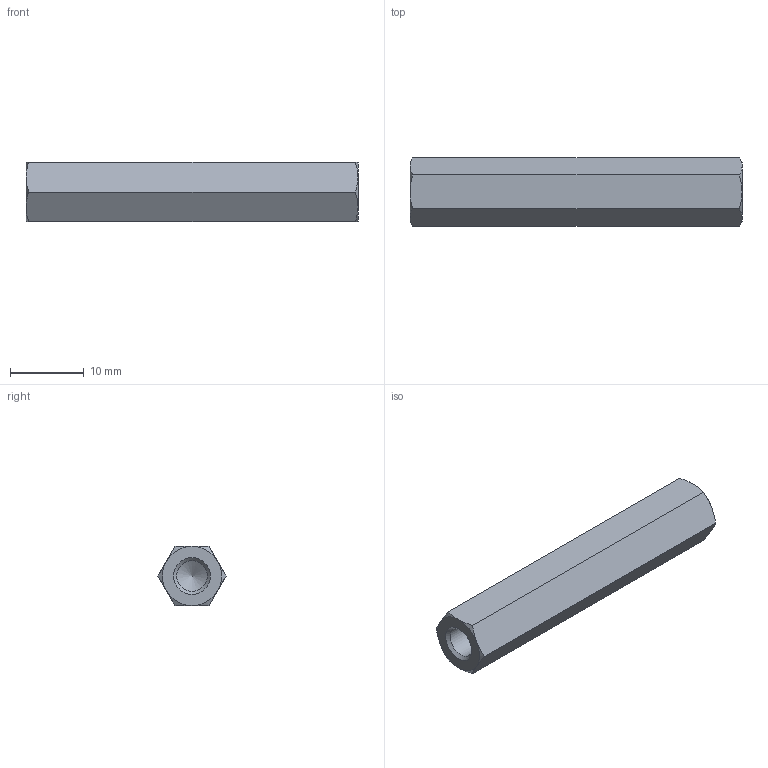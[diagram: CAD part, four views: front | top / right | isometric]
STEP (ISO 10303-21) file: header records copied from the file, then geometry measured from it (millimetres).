
FILE_DESCRIPTION( ( 'STEP AP203' ), '1' );
FILE_NAME( 'C:/Temp/Ganter_Step_05_03_2020/data/3_2/gn6220/gn6220_st/Spacer GN 6220-ST-M5-45-A.stp', '2020-03-13T05:42:27', ( 'License CC BY-ND 4.0' ), ( 'CADENAS' ), ' ', 'PARTsolutions', ' ' );
FILE_SCHEMA( ( 'CONFIG_CONTROL_DESIGN' ) );
Length unit declared in the file: millimetre
Products named in the file (1): _Spacer GN 6220-ST-M5-45-A
Bounding box: 45 x 9.24 x 8 mm (x, y, z)
Volume: 2098.1 mm3; surface area: 1719.9 mm2
Topology: 1 solids, 1 shells, 26 faces, 57 edges, 33 vertices
Faces by surface type: cone 16, plane 8, cylinder 2
Full cylindrical faces by diameter (mm): 4.134 x2
Entity records: 750 total; most frequent: CARTESIAN_POINT 211, DIRECTION 96, ORIENTED_EDGE 96, EDGE_CURVE 48, AXIS2_PLACEMENT_3D 45, EDGE_LOOP 32, VERTEX_POINT 32, FACE_OUTER_BOUND 28
